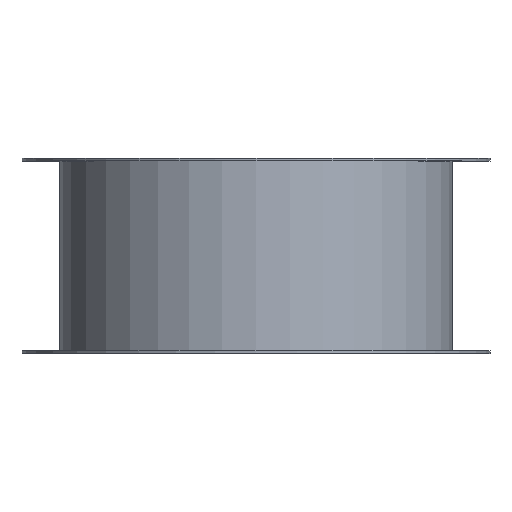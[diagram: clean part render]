
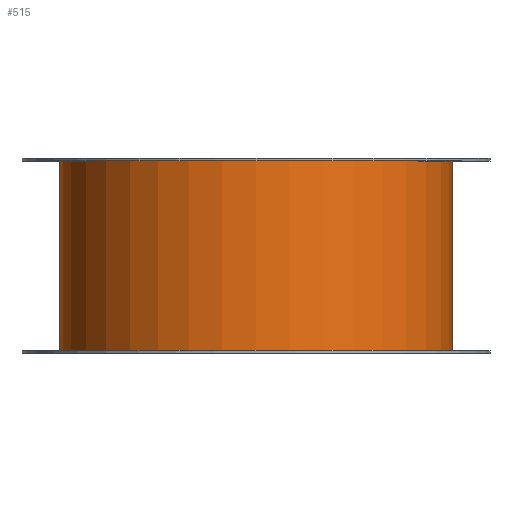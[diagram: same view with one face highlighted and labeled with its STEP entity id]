
A CAD part, top view. The second image highlights one B-rep face of the part: STEP entity #515.
In plain terms, the highlighted cylindrical face has radius 146 mm (diameter 292 mm), a full revolution.
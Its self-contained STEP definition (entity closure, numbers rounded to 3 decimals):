
#71=FACE_OUTER_BOUND('',#95,.T.);
#95=EDGE_LOOP('',(#415,#416,#417,#418));
#155=LINE('',#898,#175);
#175=VECTOR('',#749,144.);
#219=CIRCLE('',#600,146.);
#220=CIRCLE('',#601,146.);
#267=VERTEX_POINT('',#895);
#268=VERTEX_POINT('',#897);
#331=EDGE_CURVE('',#267,#267,#219,.T.);
#332=EDGE_CURVE('',#267,#268,#155,.T.);
#333=EDGE_CURVE('',#268,#268,#220,.F.);
#415=ORIENTED_EDGE('',*,*,#331,.T.);
#416=ORIENTED_EDGE('',*,*,#332,.T.);
#417=ORIENTED_EDGE('',*,*,#333,.T.);
#418=ORIENTED_EDGE('',*,*,#332,.F.);
#495=CYLINDRICAL_SURFACE('',#599,146.);
#515=ADVANCED_FACE('',(#71),#495,.T.);
#599=AXIS2_PLACEMENT_3D('',#894,#745,#746);
#600=AXIS2_PLACEMENT_3D('',#896,#747,#748);
#601=AXIS2_PLACEMENT_3D('',#899,#750,#751);
#745=DIRECTION('center_axis',(0.,1.,0.));
#746=DIRECTION('ref_axis',(1.,0.,0.));
#747=DIRECTION('center_axis',(0.,-1.,0.));
#748=DIRECTION('ref_axis',(1.,0.,0.));
#749=DIRECTION('',(0.,-1.,0.));
#750=DIRECTION('center_axis',(0.,-1.,0.));
#751=DIRECTION('ref_axis',(1.,0.,0.));
#894=CARTESIAN_POINT('Origin',(0.,0.,0.));
#895=CARTESIAN_POINT('',(-146.,70.5,0.));
#896=CARTESIAN_POINT('Origin',(0.,70.5,0.));
#897=CARTESIAN_POINT('',(-146.,-70.5,0.));
#898=CARTESIAN_POINT('',(-146.,0.,0.));
#899=CARTESIAN_POINT('Origin',(0.,-70.5,0.));
